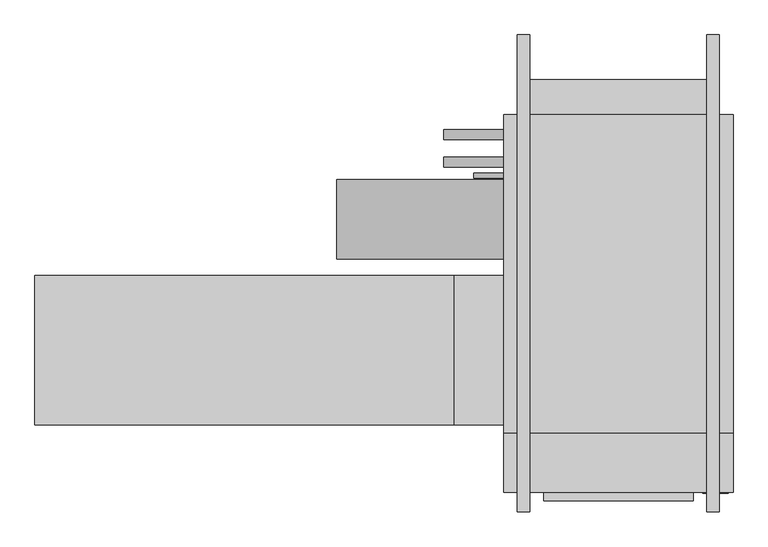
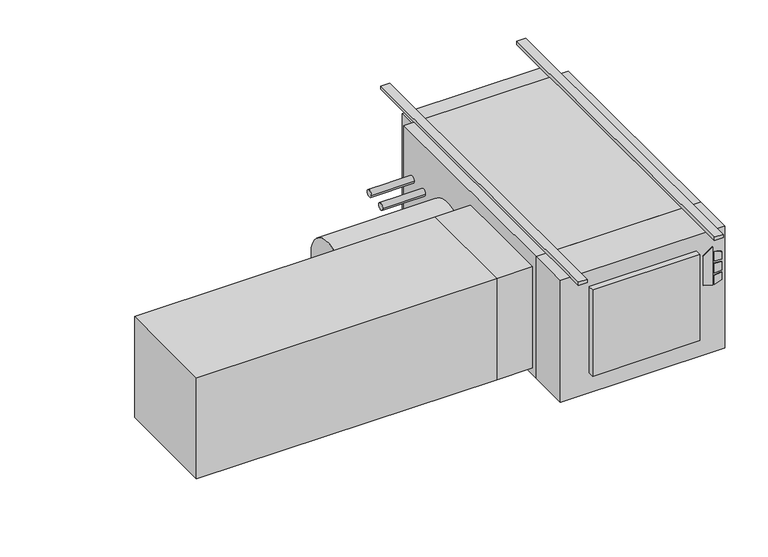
"""IFC4 building model written with IfcOpenShell, lengths in millimetres: proxy geometry."""

from ifc_helpers import new_model, si_unit, point, frame, frame_2d, origin, origin_with_axes, place, context, project, spatial, polyline, circle_curve, trimmed, segment, composite_curve, outline, extrude, source, transform, mapped, element, save


def mechanical_equipment_569a34a6(model_context):
    return source(origin(), model_context, "Body", "SweptSolid", [
        extrude(outline(polyline([(-193.2519297, 366.7868862), (-203.2, 398.9602728), (-61.0290756, 398.9602728), (-84.0510817, 366.7868862), (-193.2519297, 366.7868862)])), frame((0.0, -797.052, 0.0), z_axis=(0.0, 1.0, 0.0), x_axis=(0.0, 0.0, 1.0)), (0.0, 0.0, 1.0), 3.175),
        extrude(outline(polyline([(-114.2526443, 405.7186058), (-117.4550368, 431.8), (-88.2261958, 431.8), (-80.1617807, 405.7186058), (-114.2526443, 405.7186058)])), frame((0.0, -797.052, 0.0), z_axis=(0.0, 1.0, 0.0), x_axis=(0.0, 0.0, 1.0)), (0.0, 0.0, 1.0), 3.175),
        extrude(outline(polyline([(-166.1161712, 431.8), (-169.7816721, 405.7186058), (-203.2, 405.7186058), (-194.5657628, 431.8), (-166.1161712, 431.8)])), frame((0.0, -797.052, 0.0), z_axis=(0.0, 1.0, 0.0), x_axis=(0.0, 0.0, 1.0)), (0.0, 0.0, 1.0), 3.175),
        extrude(outline(polyline([(-126.8010097, 431.8), (-124.5191834, 405.7186058), (-160.4567319, 405.7186058), (-157.7154669, 431.8), (-126.8010097, 431.8)])), frame((0.0, -797.052, 0.0), z_axis=(0.0, 1.0, 0.0), x_axis=(0.0, 0.0, 1.0)), (0.0, 0.0, 1.0), 3.175),
        extrude(outline(polyline([(444.5, -793.877), (-139.7, -793.877), (-139.7, -644.525), (444.5, -644.525), (444.5, -793.877)])), frame((0.0, 0.0, -457.2), z_axis=(0.0, 0.0, 1.0), x_axis=(1.0, 0.0, 0.0)), (0.0, 0.0, 1.0), 457.2),
        extrude(outline(polyline([(342.9, -816.229), (-38.1, -816.229), (-38.1, -793.877), (342.9, -793.877), (342.9, -816.229)])), frame((0.0, 0.0, -381.0), z_axis=(0.0, 0.0, 1.0), x_axis=(1.0, 0.0, 0.0)), (0.0, 0.0, 1.0), 323.85),
        extrude(outline(polyline([(-1333.5, -622.3), (-1333.5, -241.3), (-266.7, -241.3), (-266.7, -622.3), (-1333.5, -622.3)])), frame((0.0, 0.0, -431.8), z_axis=(0.0, 0.0, 1.0), x_axis=(1.0, 0.0, 0.0)), (0.0, 0.0, 1.0), 381.0),
        extrude(outline(polyline([(-139.7, -241.3), (-139.7, -622.3), (-266.7, -622.3), (-266.7, -241.3), (-139.7, -241.3)])), frame((0.0, 0.0, -431.8), z_axis=(0.0, 0.0, 1.0), x_axis=(1.0, 0.0, 0.0)), (0.0, 0.0, 1.0), 381.0),
        extrude(outline(composite_curve([segment(trimmed(circle_curve(frame_2d((-98.4896516, -228.6360165)), 101.6), [point((-200.0896516, -228.6360165))], [point((3.1103484, -228.6360165))], False, "CARTESIAN"), True, "CONTINUOUS"), segment(trimmed(circle_curve(frame_2d((-98.4896516, -228.6360165)), 101.6), [point((3.1103484, -228.6360165))], [point((-200.0896516, -228.6360165))], False, "CARTESIAN"), True, "CONTINUOUS")], self_intersect=False)), frame((-565.15, 0.0, 0.0), z_axis=(1.0, 0.0, 0.0), x_axis=(0.0, 1.0, 0.0)), (0.0, 0.0, 1.0), 425.45),
        extrude(outline(composite_curve([segment(trimmed(circle_curve(frame_2d((47.625, -177.8)), 12.7), [point((34.925, -177.8))], [point((60.325, -177.8))], False, "CARTESIAN"), True, "CONTINUOUS"), segment(trimmed(circle_curve(frame_2d((47.625, -177.8)), 12.7), [point((60.325, -177.8))], [point((34.925, -177.8))], False, "CARTESIAN"), True, "CONTINUOUS")], self_intersect=False)), frame((-292.1, 0.0, 0.0), z_axis=(1.0, 0.0, 0.0), x_axis=(0.0, 1.0, 0.0)), (0.0, 0.0, 1.0), 152.4),
        extrude(outline(composite_curve([segment(trimmed(circle_curve(frame_2d((117.475, -171.45)), 12.7), [point((104.775, -171.45))], [point((130.175, -171.45))], False, "CARTESIAN"), True, "CONTINUOUS"), segment(trimmed(circle_curve(frame_2d((117.475, -171.45)), 12.7), [point((130.175, -171.45))], [point((104.775, -171.45))], False, "CARTESIAN"), True, "CONTINUOUS")], self_intersect=False)), frame((-292.1, 0.0, 0.0), z_axis=(1.0, 0.0, 0.0), x_axis=(0.0, 1.0, 0.0)), (0.0, 0.0, 1.0), 152.4),
        extrude(outline(composite_curve([segment(trimmed(circle_curve(frame_2d((12.7, -409.575)), 6.35), [point((6.35, -409.575))], [point((19.05, -409.575))], False, "CARTESIAN"), True, "CONTINUOUS"), segment(trimmed(circle_curve(frame_2d((12.7, -409.575)), 6.35), [point((19.05, -409.575))], [point((6.35, -409.575))], False, "CARTESIAN"), True, "CONTINUOUS")], self_intersect=False)), frame((-215.9, 0.0, 0.0), z_axis=(1.0, 0.0, 0.0), x_axis=(0.0, 1.0, 0.0)), (0.0, 0.0, 1.0), 76.2),
        extrude(outline(polyline([(444.5, 168.275), (444.5, -644.525), (-139.7, -644.525), (-139.7, 168.275), (444.5, 168.275)])), frame((0.0, 0.0, -457.2), z_axis=(0.0, 0.0, 1.0), x_axis=(1.0, 0.0, 0.0)), (0.0, 0.0, 1.0), 457.2),
        extrude(outline(polyline([(-95.25, 257.175), (400.05, 257.175), (400.05, 168.275), (-95.25, 168.275), (-95.25, 257.175)])), frame((0.0, 0.0, -381.0), z_axis=(0.0, 0.0, 1.0), x_axis=(1.0, 0.0, 0.0)), (0.0, 0.0, 1.0), 355.6),
        extrude(outline(polyline([(-73.025, 371.475), (-73.025, -844.677), (-104.775, -844.677), (-104.775, 371.475), (-73.025, 371.475)])), origin_with_axes(), (0.0, 0.0, 1.0), 12.7),
        extrude(outline(polyline([(409.575, 371.475), (409.575, -844.677), (377.825, -844.677), (377.825, 371.475), (409.575, 371.475)])), origin_with_axes(), (0.0, 0.0, 1.0), 12.7),
    ])


if __name__ == "__main__":
    model = new_model("IFC4")
    model_context = context("Model", 3, world=origin())
    ifc_project = project(units=[si_unit("LENGTHUNIT", "METRE", prefix="MILLI")], contexts=[model_context])
    site = spatial("IfcSite", under=ifc_project)
    building = spatial("IfcBuilding", under=site)
    placement = place(None, origin())
    mechanical_equipment_shape = mechanical_equipment_569a34a6(model_context)
    element("IfcBuildingElementProxy", 1, Name="High_Capacity_Horizontal_Cabinet_Fan_Coil_Unit_-_HTY_-_IEC_-_2 Pipe, Elec Heat_WO-Attenuator_LH Side_2022 : Size 06 - 277v/60Hz/1Ph - 8/0 Coil 4.0kW - 8\" AirIn", ObjectType="High_Capacity_Horizontal_Cabinet_Fan_Coil_Unit_-_HTY_-_IEC_-_2 Pipe, Elec Heat_WO-Attenuator_LH Side_2022 : Size 06 - 277v/60Hz/1Ph - 8/0 Coil 4.0kW - 8\" AirIn", at=placement, inside=building, context=model_context, shape_type="MappedRepresentation", body=[
        mapped(mechanical_equipment_shape, transform((0.0, 0.0, 0.0), x_axis=(1.0, 0.0, 0.0), y_axis=(0.0, 1.0, 0.0), z_axis=(0.0, 0.0, 1.0))),
    ])
    save(model, "model.ifc")
